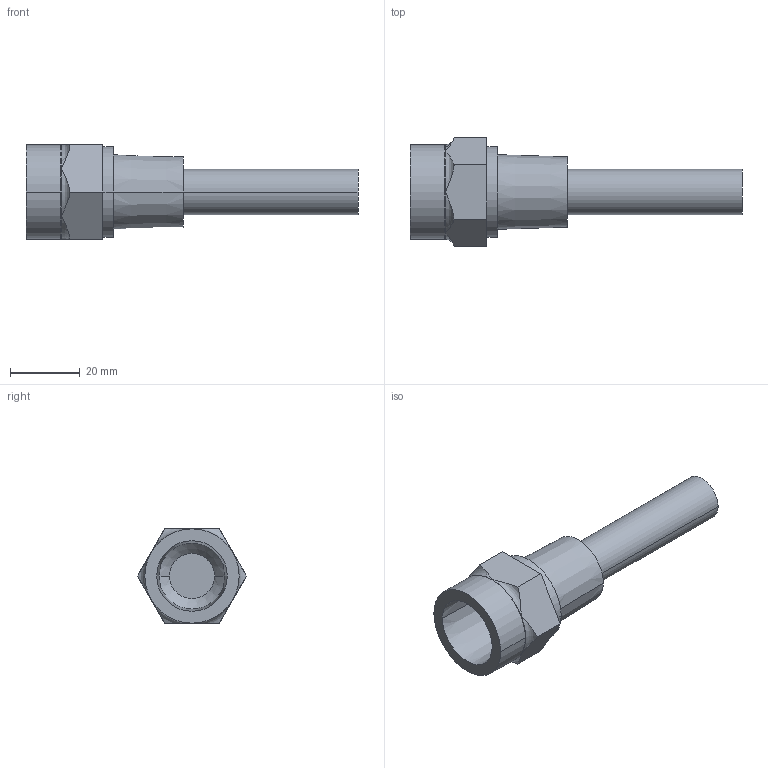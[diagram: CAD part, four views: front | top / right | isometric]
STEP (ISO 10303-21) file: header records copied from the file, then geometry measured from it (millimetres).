
FILE_DESCRIPTION( ( '' ), '1' );
FILE_NAME( '//expscmdclustefs.cadenas.external/client_exchange/iodir/jobs/output/wkb55335137_no0/STEP/E35110_2_03.stp', '2013-03-08T13:20:54', ( '' ), ( '' ), ' ', ' ', ' ' );
FILE_SCHEMA( ( 'CONFIG_CONTROL_DESIGN' ) );
Length unit declared in the file: millimetre
Products named in the file (1): 1
Bounding box: 95 x 31.18 x 27 mm (x, y, z)
Volume: 21579.3 mm3; surface area: 7979.5 mm2
Topology: 1 solids, 1 shells, 28 faces, 63 edges, 41 vertices
Faces by surface type: plane 12, cone 6, cylinder 6, torus 4
Entity records: 1126 total; most frequent: CARTESIAN_POINT 437, DIRECTION 144, ORIENTED_EDGE 126, EDGE_CURVE 63, AXIS2_PLACEMENT_3D 60, VERTEX_POINT 41, EDGE_LOOP 32, CIRCLE 31
